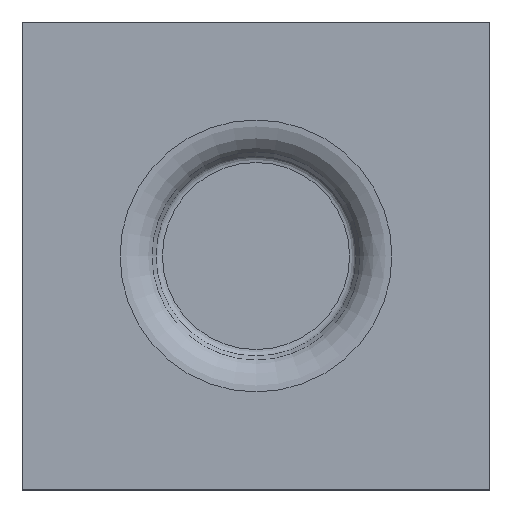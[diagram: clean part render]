
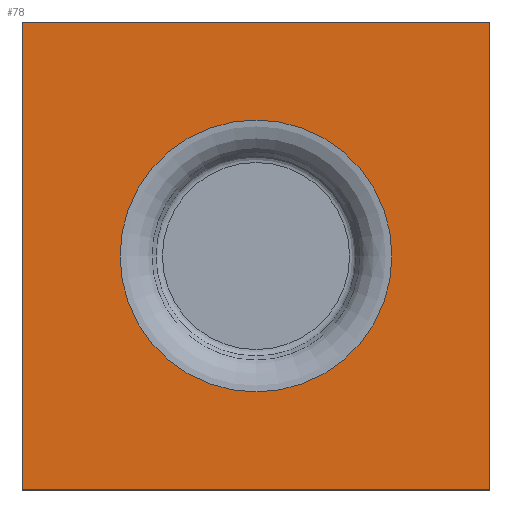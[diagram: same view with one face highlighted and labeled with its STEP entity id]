
A CAD part, top view. The second image highlights one B-rep face of the part: STEP entity #78.
In plain terms, the highlighted planar face has unit normal (0, 0, 1).
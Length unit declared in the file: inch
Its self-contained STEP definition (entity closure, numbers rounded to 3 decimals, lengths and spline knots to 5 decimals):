
#78=ADVANCED_FACE('',(#99,#100),#101,.T.);
#99=FACE_OUTER_BOUND('',#135,.T.);
#100=FACE_BOUND('',#136,.T.);
#101=PLANE('',#137);
#135=EDGE_LOOP('',(#177,#178,#179,#180));
#136=EDGE_LOOP('',(#181));
#137=AXIS2_PLACEMENT_3D('',#182,#183,#184);
#177=ORIENTED_EDGE('',*,*,#248,.T.);
#178=ORIENTED_EDGE('',*,*,#249,.T.);
#179=ORIENTED_EDGE('',*,*,#250,.T.);
#180=ORIENTED_EDGE('',*,*,#251,.T.);
#181=ORIENTED_EDGE('',*,*,#247,.F.);
#182=CARTESIAN_POINT('',(-1.24065,-0.51097,0.125));
#183=DIRECTION('',(0.0,0.0,1.0));
#184=DIRECTION('',(1.0,0.0,0.0));
#247=EDGE_CURVE('',#270,#270,#271,.T.);
#248=EDGE_CURVE('',#272,#273,#274,.T.);
#249=EDGE_CURVE('',#273,#275,#276,.T.);
#250=EDGE_CURVE('',#275,#277,#278,.T.);
#251=EDGE_CURVE('',#277,#272,#279,.T.);
#270=VERTEX_POINT('',#306);
#271=CIRCLE('',#307,0.58114);
#272=VERTEX_POINT('',#308);
#273=VERTEX_POINT('',#309);
#274=LINE('',#310,#311);
#275=VERTEX_POINT('',#312);
#276=LINE('',#313,#314);
#277=VERTEX_POINT('',#315);
#278=LINE('',#316,#317);
#279=LINE('',#318,#319);
#306=CARTESIAN_POINT('',(-0.65951,-0.51097,0.125));
#307=AXIS2_PLACEMENT_3D('',#357,#358,#359);
#308=CARTESIAN_POINT('',(-0.24065,-1.51097,0.125));
#309=CARTESIAN_POINT('',(-0.24065,0.48903,0.125));
#310=CARTESIAN_POINT('',(-0.24065,-0.51097,0.125));
#311=VECTOR('',#360,1.0);
#312=CARTESIAN_POINT('',(-2.24065,0.48903,0.125));
#313=CARTESIAN_POINT('',(-1.24065,0.48903,0.125));
#314=VECTOR('',#361,1.0);
#315=CARTESIAN_POINT('',(-2.24065,-1.51097,0.125));
#316=CARTESIAN_POINT('',(-2.24065,-0.51097,0.125));
#317=VECTOR('',#362,1.0);
#318=CARTESIAN_POINT('',(-1.24065,-1.51097,0.125));
#319=VECTOR('',#363,1.0);
#357=CARTESIAN_POINT('',(-1.24065,-0.51097,0.125));
#358=DIRECTION('',(0.0,0.0,1.0));
#359=DIRECTION('',(1.0,0.0,0.0));
#360=DIRECTION('',(0.0,1.0,0.0));
#361=DIRECTION('',(-1.0,0.0,0.0));
#362=DIRECTION('',(0.0,-1.0,0.0));
#363=DIRECTION('',(1.0,0.0,0.0));
